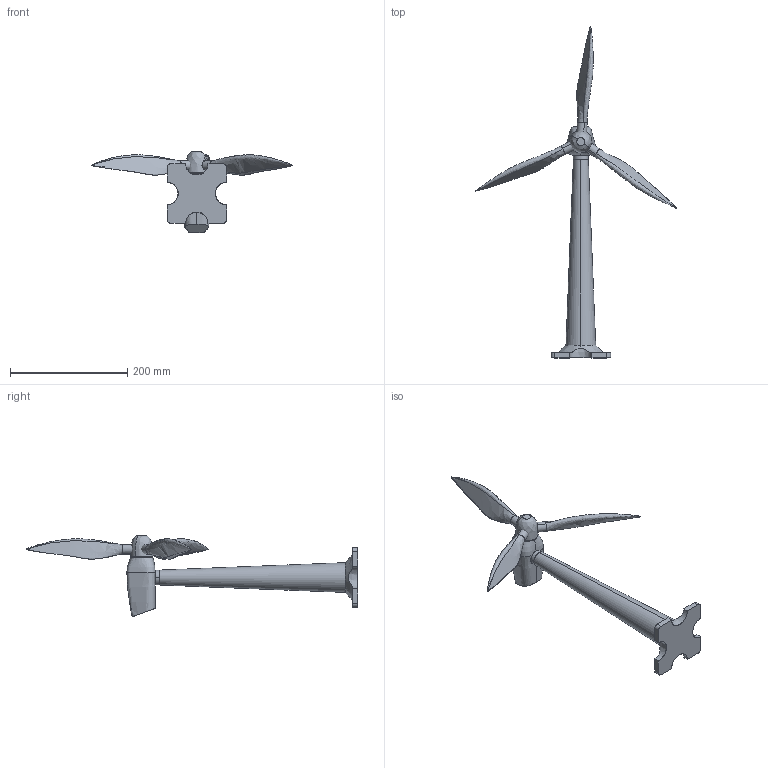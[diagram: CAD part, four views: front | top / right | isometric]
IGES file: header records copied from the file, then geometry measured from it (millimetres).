
Start section: SolidWorks IGES file using analytic representation for surfaces
Global section: file name: C:\Users\User\Desktop\Grabcad\Solid Works\Assembly.IGS; native system: SolidWorks 2018; preprocessor: SolidWorks 2018; author: User; date: 180605.145522; units: millimetre
Bounding box: 342.47 x 566.56 x 139.6 mm (x, y, z)
Surface area: 116960.6 mm2 (no closed solid volume)
Topology: 0 solids, 0 shells, 61 faces, 1842 edges, 2149 vertices
Faces by surface type: bspline 38, revolution 23
